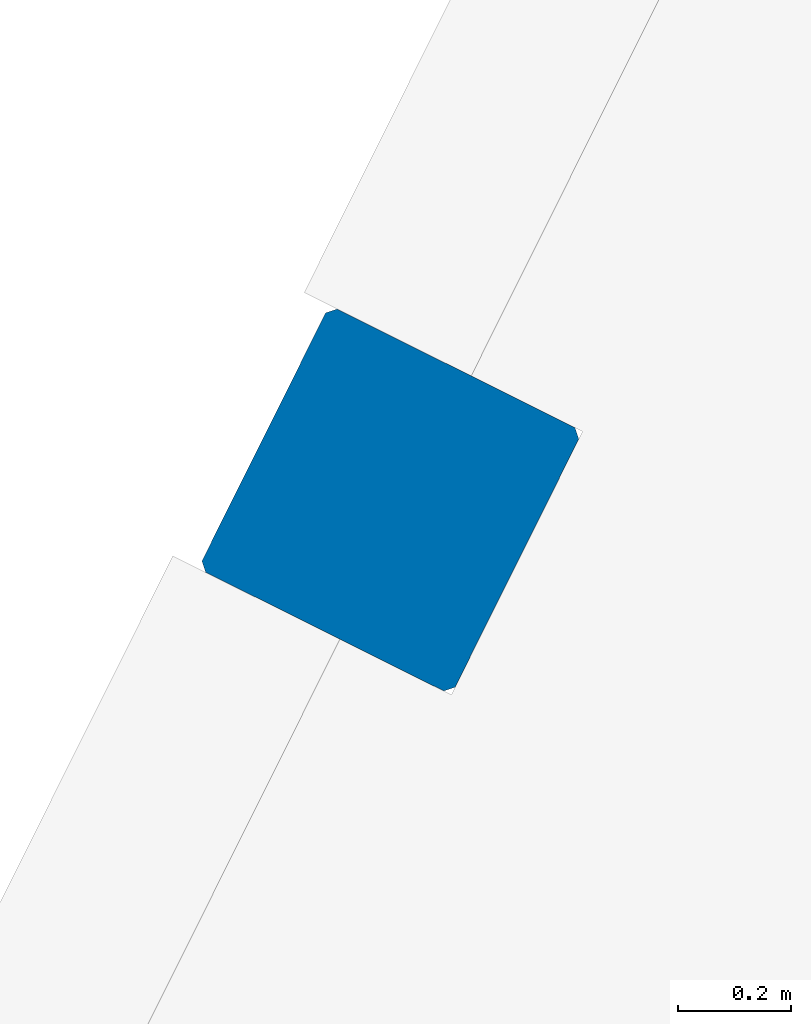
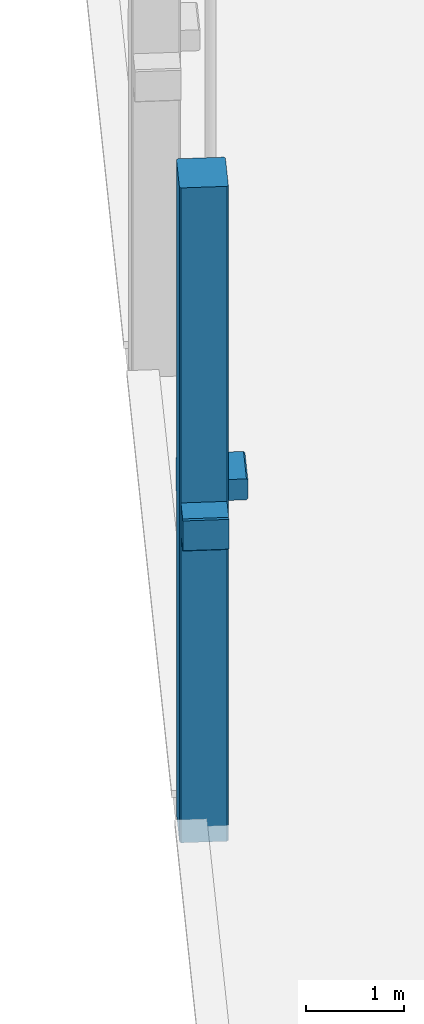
# One storey, part 21 of 91: 1 column.
"""IFC2X3 building model written with IfcOpenShell, lengths in metres."""

from ifc_helpers import new_model, entity, si_unit, converted_unit, derived_unit, direction, frame, origin, place, context, subcontext, project, spatial, faceted_brep, source, transform, mapped, material, type_object, type_shapes, element, save


model = new_model("IFC2X3")

# Units and contexts
model_context = context("Model", 3, precision=1e-05, world=origin(), true_north=direction((0.894925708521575, 0.446215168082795)))
context_of_model = context(None, 3, precision=1e-05, world=origin(), true_north=direction((0.894925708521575, 0.446215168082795)))
body_context = subcontext(model_context, "Body", "Model", "MODEL_VIEW")
ifc_project = project(units=[si_unit("LENGTHUNIT", "METRE"), si_unit("AREAUNIT", "SQUARE_METRE"), si_unit("VOLUMEUNIT", "CUBIC_METRE"), converted_unit("PLANEANGLEUNIT", "DEGREE", entity("IfcRatioMeasure", 0.0174532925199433), si_unit("PLANEANGLEUNIT", "RADIAN"), dimensions=[0, 0, 0, 0, 0, 0, 0]), si_unit("MASSUNIT", "GRAM", prefix="KILO"), si_unit("TIMEUNIT", "SECOND"), si_unit("FREQUENCYUNIT", "HERTZ"), si_unit("THERMODYNAMICTEMPERATUREUNIT", "DEGREE_CELSIUS"), derived_unit("THERMALTRANSMITTANCEUNIT", [(si_unit("MASSUNIT", "GRAM", prefix="KILO"), 1), (si_unit("THERMODYNAMICTEMPERATUREUNIT", "KELVIN"), -1), (si_unit("TIMEUNIT", "SECOND"), -3)]), derived_unit("VOLUMETRICFLOWRATEUNIT", [(si_unit("LENGTHUNIT", "METRE"), 3), (si_unit("TIMEUNIT", "SECOND"), -1)]), si_unit("ELECTRICCURRENTUNIT", "AMPERE"), si_unit("ELECTRICVOLTAGEUNIT", "VOLT"), si_unit("POWERUNIT", "WATT"), si_unit("FORCEUNIT", "NEWTON", prefix="KILO"), si_unit("ILLUMINANCEUNIT", "LUX"), si_unit("LUMINOUSFLUXUNIT", "LUMEN"), si_unit("LUMINOUSINTENSITYUNIT", "CANDELA"), si_unit("PRESSUREUNIT", "PASCAL")], contexts=[model_context, context_of_model])

# Site, building, storey
site_placement = place(None, frame((218.228324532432, 584.720189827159, 0.0), z_axis=(0.0, 0.0, 1.0), x_axis=(0.446215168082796, 0.894925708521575, 0.0)))
site = spatial("IfcSite", under=ifc_project, at=site_placement, Name="Default", CompositionType="ELEMENT")
building_placement = place(site_placement, origin())
building = spatial("IfcBuilding", under=site, at=building_placement, CompositionType="ELEMENT")
storey_placement = place(building_placement, origin())
storey = spatial("IfcBuildingStorey", under=building, at=storey_placement, Name="0 - Piano Terra", CompositionType="ELEMENT", Elevation=0.0)

# Column
ifc_material = material(Name="Calcestruzzo - Calcestruzzo prefabbricato - 35 MPa")
column_type = type_object("IfcColumnType", Name="520x500-1 livello laterale", PredefinedType="COLUMN", material=ifc_material)
shared_shape = source(origin(), body_context, "Body", "Brep", [
    faceted_brep([(0.804999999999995, 0.200000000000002, 8.15), (0.820000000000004, 0.215000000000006, 8.15), (0.82000000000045, 0.68499999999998, 8.15), (0.805000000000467, 0.700000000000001, 8.15), (0.31500000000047, 0.700000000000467, 8.15), (0.300000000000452, 0.68500000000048, 8.15), (0.300000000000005, 0.215000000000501, 8.15), (0.314999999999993, 0.200000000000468, 8.15), (0.804999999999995, 0.200000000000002, 0.0), (0.314999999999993, 0.200000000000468, 0.0), (0.300000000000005, 0.215000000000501, 0.0), (0.300000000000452, 0.68500000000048, 0.0), (0.31500000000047, 0.700000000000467, 0.0), (0.805000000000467, 0.700000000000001, 0.0), (0.82000000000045, 0.68499999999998, 0.0), (0.820000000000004, 0.215000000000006, 0.0)], [[[0, 1, 2, 3, 4, 5, 6, 7]], [[8, 9, 10, 11, 12, 13, 14, 15]], [[7, 9, 8, 0]], [[6, 10, 9, 7]], [[5, 11, 10, 6]], [[4, 12, 11, 5]], [[3, 13, 12, 4]], [[2, 14, 13, 3]], [[1, 15, 14, 2]], [[0, 8, 15, 1]]]),
    faceted_brep([(1.10500000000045, 0.684999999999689, 4.23), (1.12000000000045, 0.684999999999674, 4.215), (1.12000000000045, 0.684999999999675, 3.845), (1.10500000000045, 0.684999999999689, 3.83), (0.82000000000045, 0.684999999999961, 3.83), (0.82000000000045, 0.68499999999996, 4.23), (1.10500000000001, 0.214999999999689, 4.23), (1.12, 0.214999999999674, 4.215), (0.82, 0.21499999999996, 4.23), (0.82, 0.214999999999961, 3.83), (1.105, 0.214999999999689, 3.83), (1.12, 0.214999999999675, 3.845)], [[[0, 1, 2, 3, 4, 5]], [[0, 6, 7, 1]], [[6, 8, 9, 10, 11, 7]], [[5, 8, 6, 0]], [[4, 9, 8, 5]], [[3, 10, 9, 4]], [[2, 11, 10, 3]], [[1, 7, 11, 2]]]),
    faceted_brep([(0.804999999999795, 0.0149999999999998, 4.49), (0.804999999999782, 0.0, 4.47500000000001), (0.804999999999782, 0.0, 4.24500000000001), (0.804999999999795, 0.0149999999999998, 4.23000000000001), (0.804999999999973, 0.200000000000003, 4.23000000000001), (0.804999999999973, 0.200000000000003, 4.49), (0.314999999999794, 0.0150000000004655, 4.49), (0.314999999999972, 0.200000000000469, 4.49), (0.314999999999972, 0.200000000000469, 4.23000000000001), (0.314999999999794, 0.0150000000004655, 4.23000000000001), (0.314999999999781, 0.0, 4.24500000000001), (0.314999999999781, 0.0, 4.47500000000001)], [[[0, 1, 2, 3, 4, 5]], [[6, 7, 8, 9, 10, 11]], [[5, 7, 6, 0]], [[4, 8, 7, 5]], [[3, 9, 8, 4]], [[2, 10, 9, 3]], [[1, 11, 10, 2]], [[0, 6, 11, 1]]]),
    faceted_brep([(0.0150000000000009, 0.215000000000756, 4.23), (0.0, 0.215000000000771, 4.21500000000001), (0.0, 0.21500000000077, 3.84500000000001), (0.0150000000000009, 0.215000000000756, 3.83000000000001), (0.300000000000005, 0.215000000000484, 3.83000000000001), (0.300000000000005, 0.215000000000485, 4.23), (0.0150000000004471, 0.685000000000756, 4.23), (0.0, 0.68500000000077, 4.21500000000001), (0.300000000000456, 0.685000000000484, 4.23), (0.300000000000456, 0.685000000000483, 3.83000000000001), (0.0150000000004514, 0.685000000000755, 3.83000000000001), (0.0, 0.685000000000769, 3.84500000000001)], [[[0, 1, 2, 3, 4, 5]], [[0, 6, 7, 1]], [[6, 8, 9, 10, 11, 7]], [[5, 8, 6, 0]], [[4, 9, 8, 5]], [[3, 10, 9, 4]], [[2, 11, 10, 3]], [[1, 7, 11, 2]]]),
])
type_shapes(column_type, [shared_shape])
column_placement = place(storey_placement, frame((26.6090451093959, 5.41892100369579, -0.2)))
element("IfcColumn", 1, at=column_placement, inside=storey, type_object=column_type, material=ifc_material, Name="Prefabbricati-Pilastro rettangolare con modiglioni a più strati:520x500-1 livello laterale", ObjectType="520x500-1 livello laterale", context=body_context, shape_type="MappedRepresentation", body=[
    mapped(shared_shape, transform((0.0, 0.0, 0.0), scale=1.0)),
])

save(model, "model.ifc")
